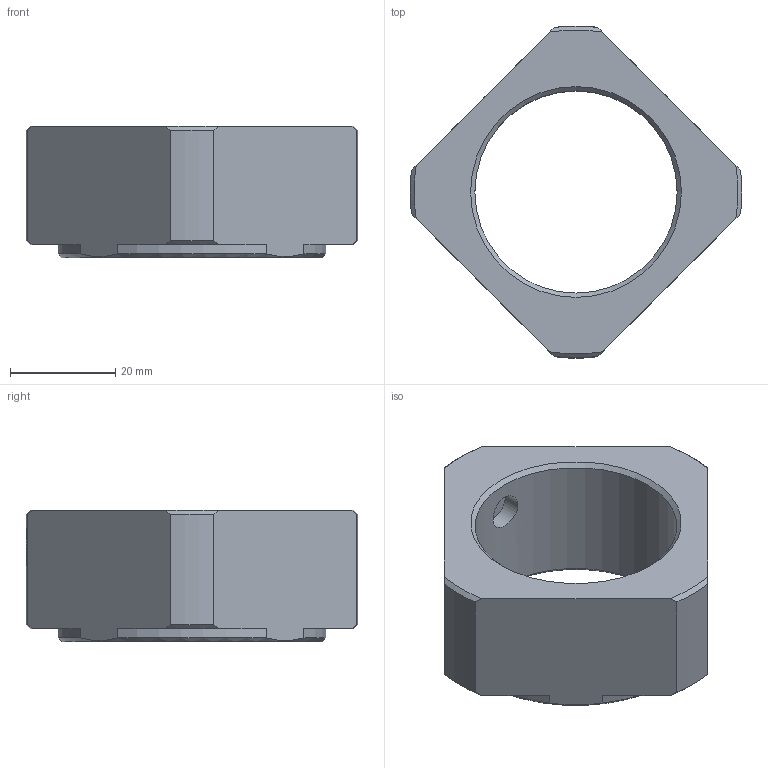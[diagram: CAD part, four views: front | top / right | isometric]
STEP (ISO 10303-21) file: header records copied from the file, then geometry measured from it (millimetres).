
FILE_DESCRIPTION(/* description */ ('STEP AP203'),/* implementation_level */ '2;1');
FILE_NAME(/* name */ 'RN 40',/* time_stamp */ '2025-06-11T07:42:39+02:00',/* author */ ('License CC BY-ND 4.0'),/* organization */ ('CADENAS'),/* preprocessor_version */ 'ST-DEVELOPER v19.3',/* originating_system */ 'PARTsolutions',/* authorisation */ ' ');
FILE_SCHEMA (('CONFIG_CONTROL_DESIGN'));
Length unit declared in the file: millimetre
Products named in the file (1): RN 40
Bounding box: 62.94 x 62.97 x 25 mm (x, y, z)
Volume: 30713.7 mm3; surface area: 10094 mm2
Topology: 1 solids, 1 shells, 42 faces, 108 edges, 71 vertices
Faces by surface type: plane 19, cone 12, cylinder 11
Full cylindrical faces by diameter (mm): 6.647 x1, 8 x1, 38.376 x1
Entity records: 1310 total; most frequent: CARTESIAN_POINT 297, ORIENTED_EDGE 200, DIRECTION 196, EDGE_CURVE 100, AXIS2_PLACEMENT_3D 75, VERTEX_POINT 70, EDGE_LOOP 54, FACE_BOUND 54
